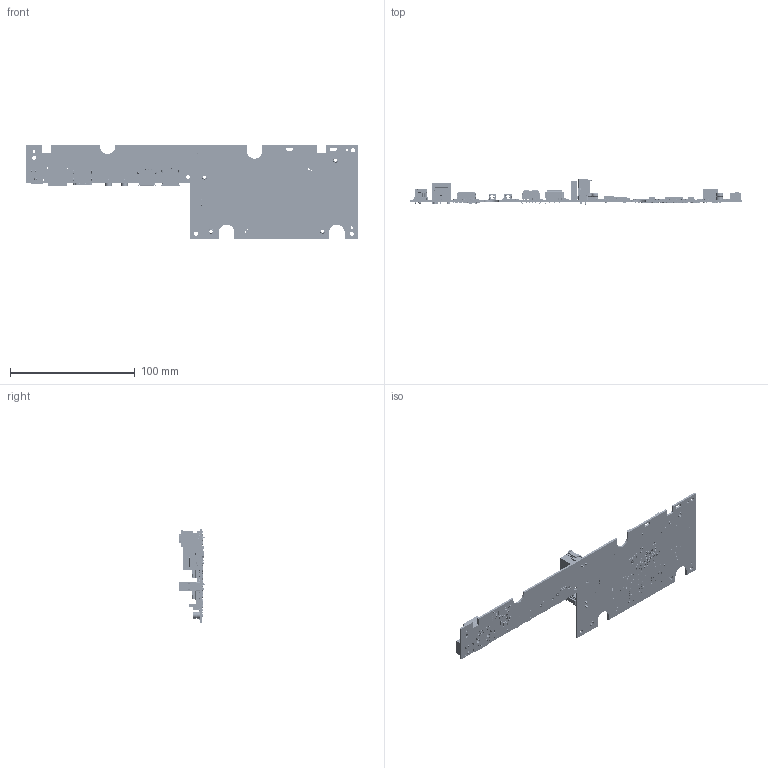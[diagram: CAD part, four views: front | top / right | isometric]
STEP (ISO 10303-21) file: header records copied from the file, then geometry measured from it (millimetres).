
FILE_DESCRIPTION((''),'2;1');
FILE_NAME('SWAN_PCB_ASSEMBLY_ASM','2020-12-01T',('g6007893'),(''),'PRO/ENGINEER BY PARAMETRIC TECHNOLOGY CORPORATION, 2013320','PRO/ENGINEER BY PARAMETRIC TECHNOLOGY CORPORATION, 2013320','');
FILE_SCHEMA(('AUTOMOTIVE_DESIGN { 1 0 10303 214 1 1 1 1 }'));
Products named in the file (106): SWAN_PCB; SHD-6012D01-BLTN-T1-CUSTOMER; JFM38011-0L69-4F; MSBR-21; MSBR-20; MSBR-19; MSBR-18; MSBR-17; MSBR-16; MSBR-15; MSBR-14; MSBR-13; MSBR-12; MSBR-11; MSBR-10; MSBR-9; MSBR-8; MSBR-7; MSBR-6; MSBR-5; MSBR-4; MSBR-3; MSBR-2; MSBR-1; QJ-WFB4-IM_0325_ASM; 2SJ2296-000111; MSBR-1-011; _UB1112C-4K1-4F_3D-01; UB1112C-4K1-4F_3D-01_ASM; UEA1112C-4HK1-4F_3D; 86514-02XX_REV-1; TBGA-14X14-153-H0_8; UBGA-35X35-463S0; FBGA-16X9-96CS0; STAND-NUT-411-00041-005; S-51282-002HXXX-XXX; ANT_CONNECTOR; FH41-15S-0_5SH; CABLE-POWER-SWITCH-01; 5022311500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
Assembly tree (1190 placements, depth 3):
  SWAN_PCB_ASSEMBLY_ASM
    SWAN_PCB
    SHD-6012D01-BLTN-T1-CUSTOMER
    JFM38011-0L69-4F
    QJ-WFB4-IM_0325_ASM
      MSBR-21
      MSBR-20
      MSBR-19
      MSBR-18
      MSBR-17
      MSBR-16
      MSBR-15
      MSBR-14
      MSBR-13
      MSBR-12
      MSBR-11
      MSBR-10
      MSBR-9
      MSBR-8
      MSBR-7
      MSBR-6
      MSBR-5
      MSBR-4
      MSBR-3
      MSBR-2
      MSBR-1
    2SJ2296-000111  x2
    UB1112C-4K1-4F_3D-01_ASM
      MSBR-1-011
      _UB1112C-4K1-4F_3D-01
    UEA1112C-4HK1-4F_3D
    86514-02XX_REV-1  x2
    TBGA-14X14-153-H0_8
    UBGA-35X35-463S0
    FBGA-16X9-96CS0  x4
    STAND-NUT-411-00041-005  x4
    S-51282-002HXXX-XXX  x2
    ANT_CONNECTOR
    FH41-15S-0_5SH
    CABLE-POWER-SWITCH-01
    5022311500  x3
    K18X001T00_115-1201-0900_ASM
      SOT-523AH0_95  x2
      UQFN-5X5-40ASH-H1S1
      R-11_5X5-5S2
      MSOP-8A
      RP-S2X1-8  x2
      TQFN-5X5-28GSHS0
      F-1206
      M-UQFN-5X5-40SH
      TQFN-4X4-24CSH-SPEC
      D-S4_1X2-10SH
      UQFN-2X2-10ASH
      TLP-2_5X1-10S0  x9
      SOT-23-8A  x2
      TSSOP-8A
      CN-4X2-2
      SOT-26B  x3
      SOT-666AS0  x3
      CN-D5X1-2_54AHD
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Bounding box: 266.5 x 20.1 x 75 mm (x, y, z)
Volume: 33765.1 mm3; surface area: 53089 mm2
Topology: 1183 solids, 1204 shells, 33620 faces, 130213 edges, 117485 vertices
Faces by surface type: plane 27759, cylinder 5511, extrusion 117, cone 94, bspline 77, torus 34, sphere 28
Entity records: 620602 total; most frequent: CARTESIAN_POINT 86398, DIRECTION 82276, VECTOR 48246, LINE 48129, PRESENTATION_STYLE_ASSIGNMENT 43764, STYLED_ITEM 43764, CURVE_STYLE 42579, ORIENTED_EDGE 38828
